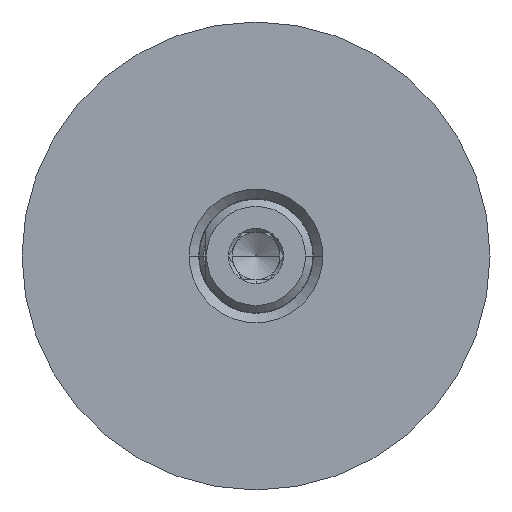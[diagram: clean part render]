
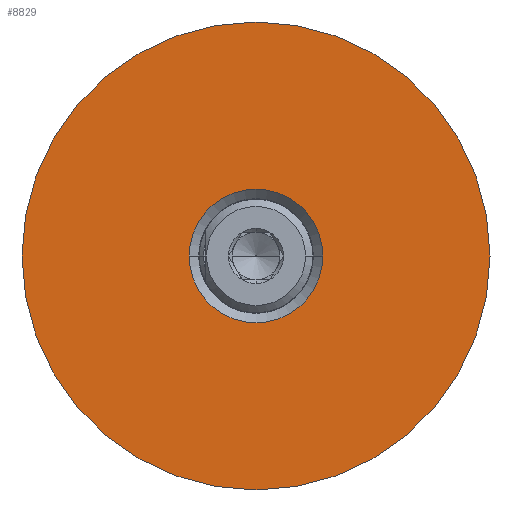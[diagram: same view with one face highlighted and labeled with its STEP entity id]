
A CAD part, left-side view. The second image highlights one B-rep face of the part: STEP entity #8829.
In plain terms, the highlighted planar face has unit normal (-1, 0, 0).
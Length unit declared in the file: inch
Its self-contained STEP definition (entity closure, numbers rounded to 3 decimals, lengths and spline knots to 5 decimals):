
#8637=CARTESIAN_POINT('',(0.,-0.2185,2.61));
#8638=VERTEX_POINT('',#8637);
#8646=CARTESIAN_POINT('',(0.,0.2185,2.61));
#8647=VERTEX_POINT('',#8646);
#8654=CARTESIAN_POINT('',(0.,0.0,2.61));
#8655=DIRECTION('',(-1.0,0.0,0.0));
#8656=DIRECTION('',(0.0,-1.0,0.0));
#8657=AXIS2_PLACEMENT_3D('',#8654,#8655,#8656);
#8658=CIRCLE('',#8657,0.2185);
#8659=EDGE_CURVE('',#8647,#8638,#8658,.T.);
#8671=CARTESIAN_POINT('',(0.,-0.765,2.61));
#8672=VERTEX_POINT('',#8671);
#8688=CARTESIAN_POINT('',(0.,0.765,2.61));
#8689=VERTEX_POINT('',#8688);
#8696=CARTESIAN_POINT('',(0.,0.0,2.61));
#8697=DIRECTION('',(-1.0,0.0,0.0));
#8698=DIRECTION('',(0.0,-1.0,0.0));
#8699=AXIS2_PLACEMENT_3D('',#8696,#8697,#8698);
#8700=CIRCLE('',#8699,0.765);
#8701=EDGE_CURVE('',#8672,#8689,#8700,.T.);
#8798=CARTESIAN_POINT('',(0.,0.0,2.61));
#8799=DIRECTION('',(-1.0,0.0,0.0));
#8800=DIRECTION('',(0.0,-1.0,0.0));
#8801=AXIS2_PLACEMENT_3D('',#8798,#8799,#8800);
#8802=CIRCLE('',#8801,0.765);
#8803=EDGE_CURVE('',#8689,#8672,#8802,.T.);
#8810=CARTESIAN_POINT('',(0.,-0.49175,2.61));
#8811=DIRECTION('',(-1.0,0.0,0.0));
#8812=DIRECTION('',(0.0,0.0,1.0));
#8813=AXIS2_PLACEMENT_3D('',#8810,#8811,#8812);
#8814=PLANE('',#8813);
#8815=ORIENTED_EDGE('',*,*,#8701,.T.);
#8816=ORIENTED_EDGE('',*,*,#8803,.T.);
#8817=EDGE_LOOP('',(#8815,#8816));
#8818=FACE_OUTER_BOUND('',#8817,.T.);
#8819=CARTESIAN_POINT('',(0.,0.0,2.61));
#8820=DIRECTION('',(-1.0,0.0,0.0));
#8821=DIRECTION('',(0.0,-1.0,0.0));
#8822=AXIS2_PLACEMENT_3D('',#8819,#8820,#8821);
#8823=CIRCLE('',#8822,0.2185);
#8824=EDGE_CURVE('',#8638,#8647,#8823,.T.);
#8825=ORIENTED_EDGE('',*,*,#8824,.F.);
#8826=ORIENTED_EDGE('',*,*,#8659,.F.);
#8827=EDGE_LOOP('',(#8825,#8826));
#8828=FACE_BOUND('',#8827,.T.);
#8829=ADVANCED_FACE('',(#8818,#8828),#8814,.T.);
